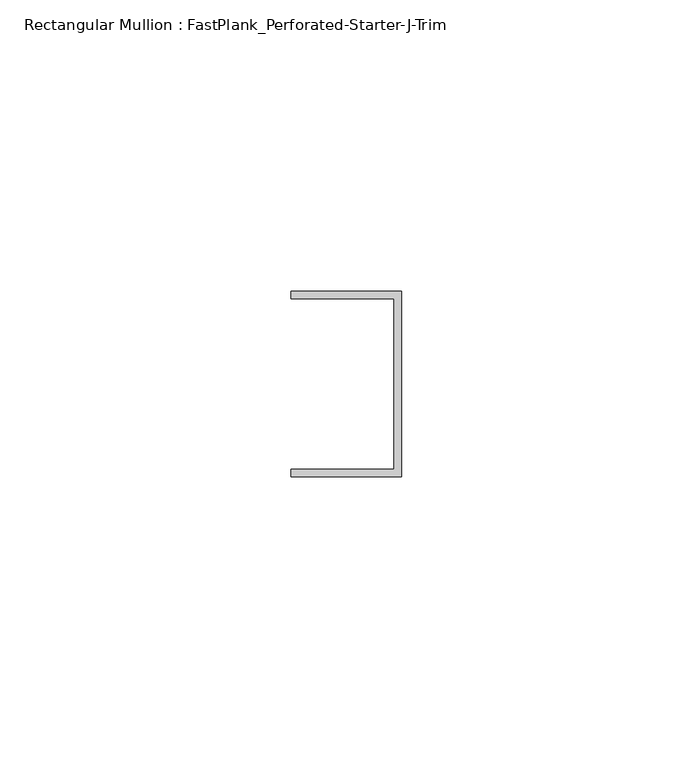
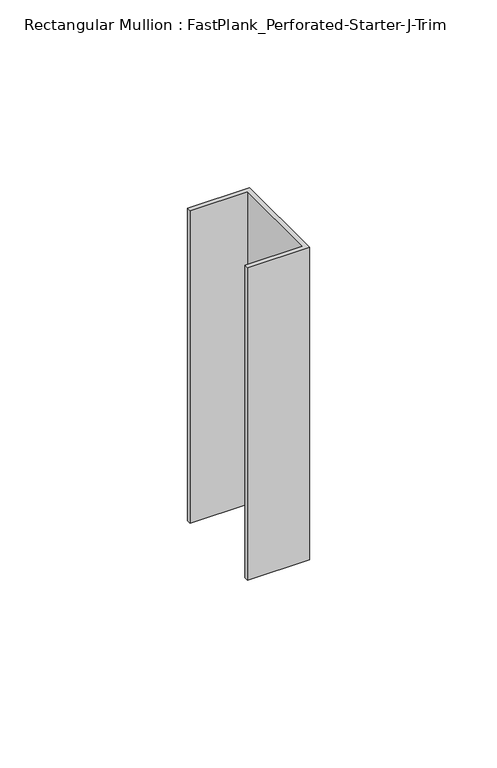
"""IFC4 building model written with IfcOpenShell, lengths in millimetres: member geometry, Rectangular Mullion : FastPlank_Perforated-Starter-J-Trim."""

import ifcopenshell
import ifcopenshell.guid

model = None  # the IFC model being written
_history = None  # IfcOwnerHistory: only IFC2X3 demands one
_inside = {}  # id of a spatial element -> (the spatial element, [elements in it])
_under = {}  # id of a project, library or spatial element -> (it, [spatial elements below it])
_declared = {}  # id of a project -> (the project, [libraries it declares])
_typed = {}  # id of a type object -> (the type object, [elements of that type])
_made_of = {}  # id of a material, layer set ... -> (it, [elements and type objects made of it])


def new_model(schema):
    """Start an empty IFC model of exactly this schema.

    Asked for "IFC4X3", IfcOpenShell would pick the latest addendum, in which some entities
    have other attributes; the version numbers below select the first issue.
    IFC2X3 requires an IfcOwnerHistory on every rooted entity: one is made here for all.
    """
    global model, _history
    if schema == "IFC4X3":
        model = ifcopenshell.file(schema_version=(4, 3, 0, 0))
    else:
        model = ifcopenshell.file(schema=schema)
    _inside.clear()
    _under.clear()
    _declared.clear()
    _typed.clear()
    _made_of.clear()
    _history = None
    if model.schema == "IFC2X3":
        org = make("IfcOrganization", Name="unknown")
        user = make(
            "IfcPersonAndOrganization",
            ThePerson=make("IfcPerson", FamilyName="unknown"),
            TheOrganization=org,
        )
        app = make(
            "IfcApplication",
            ApplicationDeveloper=org,
            Version="unknown",
            ApplicationFullName="unknown",
            ApplicationIdentifier="unknown",
        )
        _history = make(
            "IfcOwnerHistory",
            OwningUser=user,
            OwningApplication=app,
            ChangeAction="ADDED",
            CreationDate=0,
        )
    return model


def make(cls, **values):
    """One entity of the class cls with the attributes given. An attribute that is None is left unset."""
    return model.create_entity(
        cls, **{name: value for name, value in values.items() if value is not None}
    )


def rooted(cls, **values):
    """An entity with a GlobalId (a new one), such as an element, a storey or a relation."""
    return make(cls, GlobalId=ifcopenshell.guid.new(), OwnerHistory=_history, **values)


def si_unit(unit_type, name, prefix=None):
    """IfcSIUnit, for example si_unit("LENGTHUNIT", "METRE", prefix="MILLI")."""
    return make("IfcSIUnit", UnitType=unit_type, Prefix=prefix, Name=name)


def assignment(units):
    """IfcUnitAssignment: the units of a project."""
    return None if units is None else make("IfcUnitAssignment", Units=units)


def point(xyz):
    """IfcCartesianPoint."""
    return None if xyz is None else make("IfcCartesianPoint", Coordinates=xyz)


def direction(xyz):
    """IfcDirection."""
    return None if xyz is None else make("IfcDirection", DirectionRatios=xyz)


def frame(location, z_axis=None, x_axis=None):
    """IfcAxis2Placement3D, a coordinate frame: its origin and axes. An axis left out is left unset."""
    return make(
        "IfcAxis2Placement3D",
        Location=point(location),
        Axis=direction(z_axis),
        RefDirection=direction(x_axis),
    )


def origin():
    """The frame at (0, 0, 0) with its axes left unset."""
    return frame((0.0, 0.0, 0.0))


def place(relative_to, where):
    """IfcLocalPlacement: puts the frame where relative to a parent placement (None: the world)."""
    return make(
        "IfcLocalPlacement", PlacementRelTo=relative_to, RelativePlacement=where
    )


def context(
    kind, dimensions, precision=None, world=None, true_north=None, identifier=None
):
    """IfcGeometricRepresentationContext, for example the 3D "Model" context."""
    return make(
        "IfcGeometricRepresentationContext",
        ContextIdentifier=identifier,
        ContextType=kind,
        CoordinateSpaceDimension=dimensions,
        Precision=precision,
        WorldCoordinateSystem=world,
        TrueNorth=true_north,
    )


def project(units=None, contexts=None):
    """IfcProject with its units and contexts."""
    return rooted(
        "IfcProject",
        Name="project",
        RepresentationContexts=contexts,
        UnitsInContext=assignment(units),
    )


def spatial(cls, under=None, at=None, **own):
    """A site, building, storey or space (cls), placed at a placement, below another one or the project."""
    s = rooted(cls, ObjectPlacement=at, **own)
    if under is not None:
        _under.setdefault(under.id(), (under, []))[1].append(s)
    return s


def polyline(points):
    """IfcPolyline through the points."""
    return make("IfcPolyline", Points=[point(p) for p in points])


def outline(outer, holes=None, kind="AREA"):
    """IfcArbitraryClosedProfileDef: a profile drawn as a closed curve; with holes, ...WithVoids."""
    if holes is None:
        return make("IfcArbitraryClosedProfileDef", ProfileType=kind, OuterCurve=outer)
    return make(
        "IfcArbitraryProfileDefWithVoids",
        ProfileType=kind,
        OuterCurve=outer,
        InnerCurves=holes,
    )


def extrude(swept, where, along, depth):
    """IfcExtrudedAreaSolid: the profile swept, set in the frame where, extruded along a direction by depth."""
    return make(
        "IfcExtrudedAreaSolid",
        SweptArea=swept,
        Position=where,
        ExtrudedDirection=direction(along),
        Depth=depth,
    )


def shape(context_of_items, identifier, shape_type, items):
    """IfcShapeRepresentation: the items that make up one representation, for example the "Body"."""
    return make(
        "IfcShapeRepresentation",
        ContextOfItems=context_of_items,
        RepresentationIdentifier=identifier,
        RepresentationType=shape_type,
        Items=items,
    )


def source(mapping_origin, context_of_items, identifier, shape_type, items):
    """IfcRepresentationMap: a shape defined once, which mapped items show again and again."""
    return make(
        "IfcRepresentationMap",
        MappingOrigin=mapping_origin,
        MappedRepresentation=shape(context_of_items, identifier, shape_type, items),
    )


def transform(
    local_origin,
    x_axis=None,
    y_axis=None,
    z_axis=None,
    scale=None,
    scale2=None,
    scale3=None,
    uniform=True,
):
    """IfcCartesianTransformationOperator3D, or its non-uniform kind. x_axis, y_axis, z_axis: its Axis1, 2, 3."""
    if uniform:
        return make(
            "IfcCartesianTransformationOperator3D",
            Axis1=direction(x_axis),
            Axis2=direction(y_axis),
            LocalOrigin=point(local_origin),
            Scale=scale,
            Axis3=direction(z_axis),
        )
    return make(
        "IfcCartesianTransformationOperator3DnonUniform",
        Axis1=direction(x_axis),
        Axis2=direction(y_axis),
        LocalOrigin=point(local_origin),
        Scale=scale,
        Axis3=direction(z_axis),
        Scale2=scale2,
        Scale3=scale3,
    )


def mapped(mapping_source, mapping_target):
    """IfcMappedItem: shows the shape of a source again, moved by a transform."""
    return make(
        "IfcMappedItem", MappingSource=mapping_source, MappingTarget=mapping_target
    )


def made_of(thing, what):
    """Note that an element or type object is made of a material, layer set ...; save() writes the relation."""
    if what is not None:
        _made_of.setdefault(what.id(), (what, []))[1].append(thing)
    return thing


def element(
    cls,
    number,
    at=None,
    inside=None,
    cuts=None,
    type_object=None,
    material=None,
    context=None,
    identifier="Body",
    shape_type=None,
    held_by="IfcProductDefinitionShape",
    body=None,
    shapes=None,
    **own,
):
    """One element of the class cls, such as IfcWall. Its Tag is "e" and its number.

    at: its placement. inside: the storey or other place that contains it. cuts: it is an
    opening in that element (IfcRelVoidsElement). A single representation is given by context,
    identifier, shape_type and body (its items); several are given by shapes. held_by: the class
    of the entity that holds the representations. save() writes the other relations.
    """
    e = rooted(cls, Tag="e%d" % number, ObjectPlacement=at, **own)
    if body is not None:
        shapes = [shape(context, identifier, shape_type, body)]
    if shapes is not None:
        e.Representation = make(held_by, Representations=shapes)
    if inside is not None:
        _inside.setdefault(inside.id(), (inside, []))[1].append(e)
    if cuts is not None:
        rooted(
            "IfcRelVoidsElement", RelatingBuildingElement=cuts, RelatedOpeningElement=e
        )
    if type_object is not None:
        _typed.setdefault(type_object.id(), (type_object, []))[1].append(e)
    return made_of(e, material)


def aggregate(whole, parts):
    """IfcRelAggregates: a whole, such as a stair, and the parts it consists of."""
    return rooted("IfcRelAggregates", RelatingObject=whole, RelatedObjects=parts)


def save(model, path):
    """Write the relations noted so far, then the file.

    IfcRelAggregates (storeys below a building ...), IfcRelContainedInSpatialStructure (elements
    in a storey), IfcRelDefinesByType, IfcRelAssociatesMaterial and IfcRelDeclares: one each for
    every whole, place, type object, material and project.
    """
    for whole, parts in _under.values():
        aggregate(whole, parts)
    for where, things in _inside.values():
        rooted(
            "IfcRelContainedInSpatialStructure",
            RelatedElements=things,
            RelatingStructure=where,
        )
    for kind, things in _typed.values():
        rooted("IfcRelDefinesByType", RelatedObjects=things, RelatingType=kind)
    for what, things in _made_of.values():
        rooted("IfcRelAssociatesMaterial", RelatedObjects=things, RelatingMaterial=what)
    for by, libraries in _declared.values():
        rooted("IfcRelDeclares", RelatingContext=by, RelatedDefinitions=libraries)
    model.write(path)


def rectangular_mullion_fastplank_perforated_starter_j_trim_7e177d29(model_context):
    return source(origin(), model_context, "Body", "SweptSolid", [
        extrude(outline(polyline([(0.0, 10.2620691), (0.0, -21.6412691), (-19.05, -21.6412691), (-19.05, -20.3412717), (-1.3000189, -20.3412717), (-1.3000189, 8.9620717), (-19.05, 8.9620717), (-19.05, 10.2620691), (0.0, 10.2620691)])), frame((0.0, 0.0, -101.6000003), z_axis=(0.0, 0.0, 1.0), x_axis=(1.0, 0.0, 0.0)), (0.0, 0.0, 1.0), 101.6000003),
    ])


if __name__ == "__main__":
    model = new_model("IFC4")
    model_context = context("Model", 3, world=origin())
    ifc_project = project(units=[si_unit("LENGTHUNIT", "METRE", prefix="MILLI")], contexts=[model_context])
    site = spatial("IfcSite", under=ifc_project)
    building = spatial("IfcBuilding", under=site)
    placement = place(None, origin())
    rectangular_mullion_fastplank_perforated_starter_j_trim_shape = rectangular_mullion_fastplank_perforated_starter_j_trim_7e177d29(model_context)
    element("IfcMember", 1, ObjectType="Rectangular Mullion : FastPlank_Perforated-Starter-J-Trim", at=placement, inside=building, context=model_context, shape_type="MappedRepresentation", body=[
        mapped(rectangular_mullion_fastplank_perforated_starter_j_trim_shape, transform((0.0, 0.0, 0.0), x_axis=(1.0, 0.0, 0.0), y_axis=(0.0, 1.0, 0.0), z_axis=(0.0, 0.0, 1.0))),
    ])
    save(model, "model.ifc")
